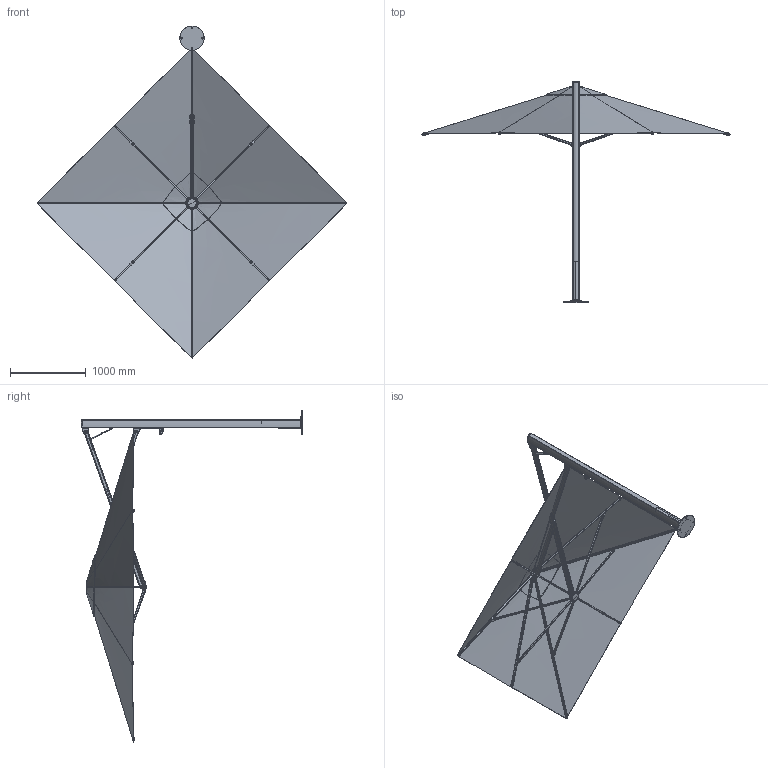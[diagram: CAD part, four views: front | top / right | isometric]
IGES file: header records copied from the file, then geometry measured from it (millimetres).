
Start section: SolidWorks IGES file using analytic representation for surfaces
Global section: file name: S:\RESEARCH and DEVELOPMENT\UnitySerenity Simple CAD Models\1. Export CAD\IGES Files\Serenity 3M Square.IGS; native system: SolidWorks 2017; preprocessor: SolidWorks 2017; author: Peter; date: 200618.165542; units: millimetre
Bounding box: 4084.59 x 2919.83 x 4378.35 mm (x, y, z)
Surface area: 23493983.9 mm2 (no closed solid volume)
Topology: 0 solids, 0 shells, 1854 faces, 25376 edges, 25355 vertices
Faces by surface type: bspline 1001, revolution 853
